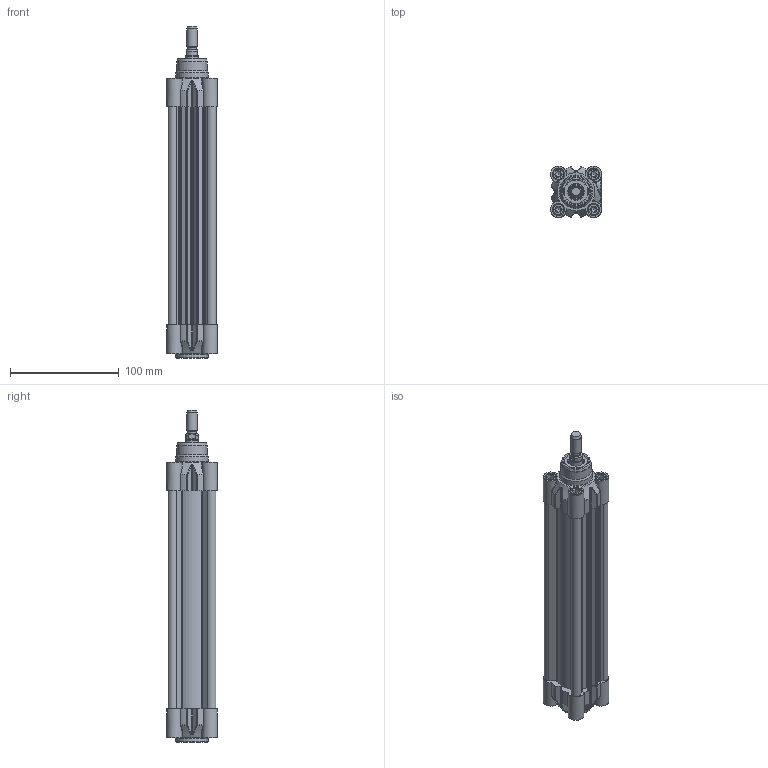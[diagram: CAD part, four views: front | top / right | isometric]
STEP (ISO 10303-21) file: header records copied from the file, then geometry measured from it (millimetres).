
FILE_DESCRIPTION(/* description */ ('CILINDRO D.E. MAGNETICO AMMORTIZZATO ISO 15552'),/* implementation_level */ '2;1');
FILE_NAME(/* name */ 'T:\Archivio Inventor\- 00 NUOVI STP PER SITO CON STELO CHE SI MUOVE\SERIE H - U\SERIE HDM\HDM032-TUBO NUOVO\HDM032.160.GS.M.stp',/* time_stamp */ '2018-07-25T14:26:53+02:00',/* author */ ('carlo.corazza'),/* organization */ (''),/* preprocessor_version */ 'ST-DEVELOPER v16.5',/* originating_system */ 'Autodesk Inventor 2017',/* authorisation */ '');
FILE_SCHEMA (('AUTOMOTIVE_DESIGN { 1 0 10303 214 3 1 1 }'));
Length unit declared in the file: millimetre
Products named in the file (5): HDM032.160.GS.M; TP; STELO-160; TA; CORPO-160
Assembly tree (4 placements, depth 2):
  HDM032.160.GS.M
    TP
    STELO-160
    TA
    CORPO-160
Bounding box: 47 x 47 x 306 mm (x, y, z)
Volume: 223085.9 mm3; surface area: 147807.1 mm2
Topology: 4 solids, 18 shells, 969 faces, 2356 edges, 1494 vertices
Faces by surface type: plane 330, cylinder 260, bspline 190, cone 86, torus 83, sphere 20
Full cylindrical faces by diameter (mm): 2 x2, 2.1 x2, 4 x2, 4.5 x2, 4.917 x8, 6 x8, 6.2 x8, 6.3 x4, 7 x2, 7.8 x4, 7.9 x3, 8 x4, 8.566 x2, 10 x9, 10.3 x8, 11.6 x1, 12 x1, 12.8 x1, 12.847 x1, 16 x1, 17 x2, 22 x3, 28 x1, 30 x2, 32 x1
Entity records: 31186 total; most frequent: CARTESIAN_POINT 9171, ORIENTED_EDGE 4162, DIRECTION 4048, EDGE_CURVE 2081, AXIS2_PLACEMENT_3D 1569, VERTEX_POINT 1436, EDGE_LOOP 1302, FACE_OUTER_BOUND 969
